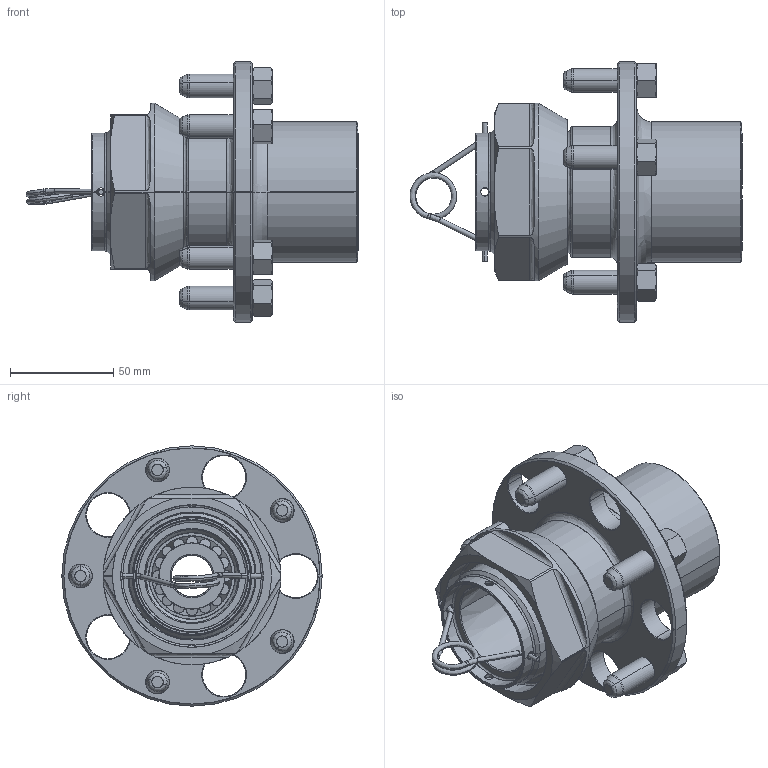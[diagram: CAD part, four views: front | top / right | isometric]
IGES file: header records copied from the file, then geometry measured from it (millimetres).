
Start section: SolidWorks IGES file using analytic representation for surfaces
Global section: file name: D:\Ïðîåêòè è ÷àñòè\Alfa Romeo Group.A center lock hub\Alfa Romeo Group.A center lock hub assembly.IGS; native system: SolidWorks 2019; preprocessor: SolidWorks 2019; author: GOD; date: 250302.205138; units: millimetre
Bounding box: 160.77 x 126 x 126 mm (x, y, z)
Surface area: 136878.3 mm2 (no closed solid volume)
Topology: 0 solids, 0 shells, 731 faces, 12275 edges, 12275 vertices
Faces by surface type: revolution 405, bspline 326
